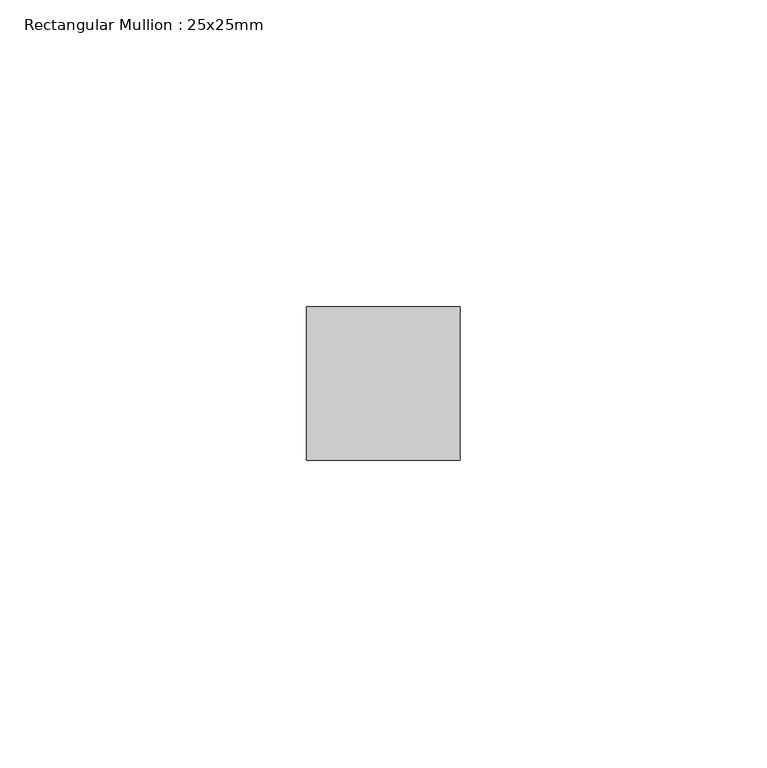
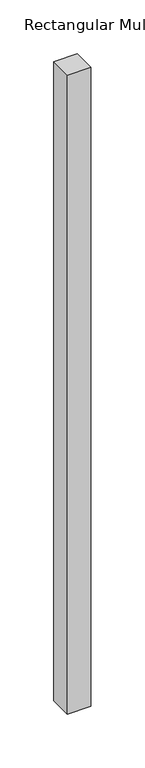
"""IFC4 building model written with IfcOpenShell, lengths in millimetres: member geometry, Rectangular Mullion : 25x25mm."""

from ifc_helpers import new_model, si_unit, frame, origin, place, context, project, spatial, polyline, outline, extrude, source, transform, mapped, element, save


def rectangular_mullion_25x25mm_e35c5382(model_context):
    return source(origin(), model_context, "Body", "SweptSolid", [
        extrude(outline(polyline([(12.5, 24.5), (12.5, -0.5), (-12.5, -0.5), (-12.5, 24.5), (12.5, 24.5)])), frame((0.0, 0.0, -722.4999998), z_axis=(0.0, 0.0, 1.0), x_axis=(1.0, 0.0, 0.0)), (0.0, 0.0, 1.0), 722.4999998),
    ])


if __name__ == "__main__":
    model = new_model("IFC4")
    model_context = context("Model", 3, world=origin())
    ifc_project = project(units=[si_unit("LENGTHUNIT", "METRE", prefix="MILLI")], contexts=[model_context])
    site = spatial("IfcSite", under=ifc_project)
    building = spatial("IfcBuilding", under=site)
    placement = place(None, origin())
    rectangular_mullion_25x25mm_shape = rectangular_mullion_25x25mm_e35c5382(model_context)
    element("IfcMember", 1, ObjectType="Rectangular Mullion : 25x25mm", at=placement, inside=building, context=model_context, shape_type="MappedRepresentation", body=[
        mapped(rectangular_mullion_25x25mm_shape, transform((0.0, 0.0, 0.0), x_axis=(1.0, 0.0, 0.0), y_axis=(0.0, 1.0, 0.0), z_axis=(0.0, 0.0, 1.0))),
    ])
    save(model, "model.ifc")
